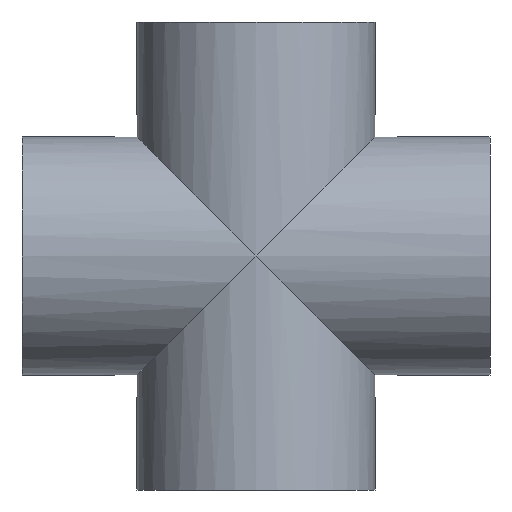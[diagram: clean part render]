
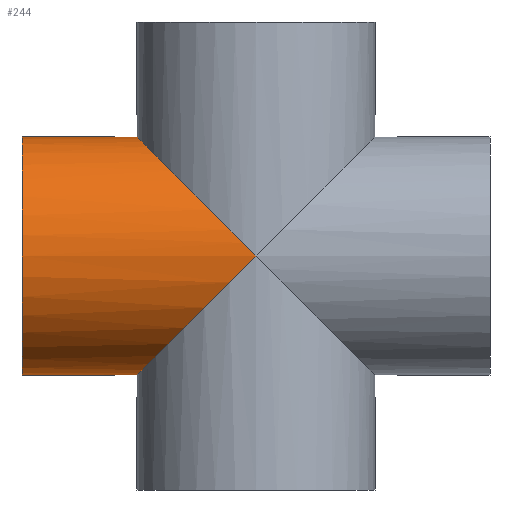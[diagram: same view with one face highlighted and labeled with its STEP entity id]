
A CAD part, left-side view. The second image highlights one B-rep face of the part: STEP entity #244.
In plain terms, the highlighted cylindrical face has radius 13.75 mm (diameter 27.5 mm), a full revolution.
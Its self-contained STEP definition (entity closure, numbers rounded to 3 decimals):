
#21=ELLIPSE('',#287,19.445,13.75);
#22=ELLIPSE('',#288,19.445,13.75);
#44=FACE_BOUND('',#98,.T.);
#64=FACE_OUTER_BOUND('',#97,.T.);
#97=EDGE_LOOP('',(#202));
#98=EDGE_LOOP('',(#203,#204));
#124=CIRCLE('',#286,13.75);
#141=VERTEX_POINT('',#431);
#142=VERTEX_POINT('',#432);
#144=VERTEX_POINT('',#438);
#166=EDGE_CURVE('',#144,#144,#124,.T.);
#167=EDGE_CURVE('',#141,#142,#21,.T.);
#168=EDGE_CURVE('',#142,#141,#22,.T.);
#202=ORIENTED_EDGE('',*,*,#166,.F.);
#203=ORIENTED_EDGE('',*,*,#167,.F.);
#204=ORIENTED_EDGE('',*,*,#168,.F.);
#228=CYLINDRICAL_SURFACE('',#285,13.75);
#244=ADVANCED_FACE('',(#64,#44),#228,.T.);
#285=AXIS2_PLACEMENT_3D('',#437,#363,#364);
#286=AXIS2_PLACEMENT_3D('',#439,#365,#366);
#287=AXIS2_PLACEMENT_3D('',#440,#367,#368);
#288=AXIS2_PLACEMENT_3D('',#441,#369,#370);
#363=DIRECTION('center_axis',(0.,1.,0.));
#364=DIRECTION('ref_axis',(1.,0.,0.));
#365=DIRECTION('center_axis',(0.,1.,0.));
#366=DIRECTION('ref_axis',(1.,0.,0.));
#367=DIRECTION('center_axis',(0.,-0.707,0.707));
#368=DIRECTION('ref_axis',(0.,-0.707,-0.707));
#369=DIRECTION('center_axis',(0.,-0.707,-0.707));
#370=DIRECTION('ref_axis',(0.,0.707,-0.707));
#431=CARTESIAN_POINT('',(13.75,0.,0.));
#432=CARTESIAN_POINT('',(-13.75,0.,0.));
#437=CARTESIAN_POINT('Origin',(0.,0.,0.));
#438=CARTESIAN_POINT('',(-13.75,27.,0.));
#439=CARTESIAN_POINT('Origin',(0.,27.,0.));
#440=CARTESIAN_POINT('Origin',(0.,0.,0.));
#441=CARTESIAN_POINT('Origin',(0.,0.,0.));
